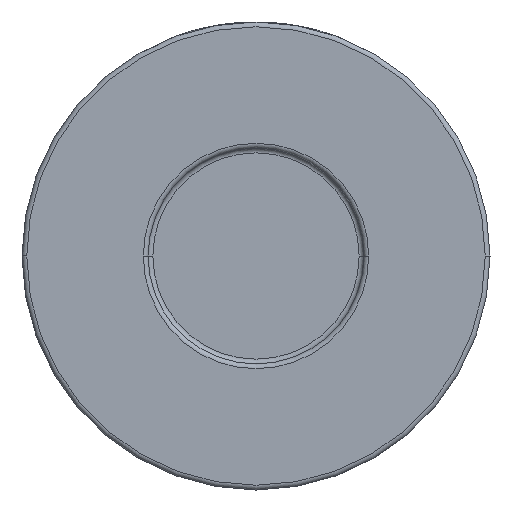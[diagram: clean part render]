
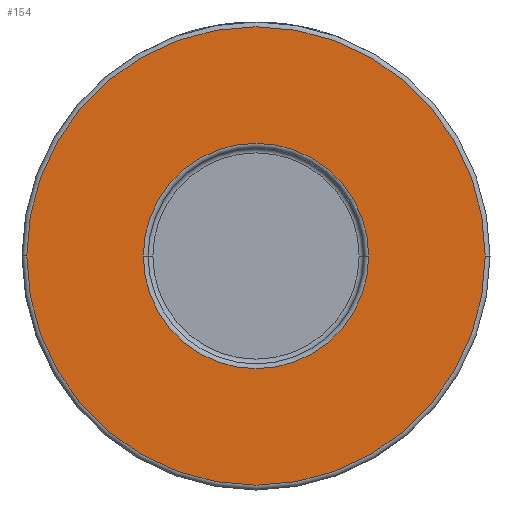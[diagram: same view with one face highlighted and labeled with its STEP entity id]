
A CAD part, front view. The second image highlights one B-rep face of the part: STEP entity #154.
In plain terms, the highlighted planar face has unit normal (0, -1, 0).
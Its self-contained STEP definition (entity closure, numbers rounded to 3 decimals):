
#142 = ORIENTED_EDGE ( 'NONE', *, *, #3901, .T. ) ;
#154 = ADVANCED_FACE ( 'NONE', ( #4289, #1825 ), #2901, .T. ) ;
#222 = DIRECTION ( 'NONE',  ( 1., 0., 0. ) ) ;
#232 = DIRECTION ( 'NONE',  ( 0., -1., 0. ) ) ;
#506 = AXIS2_PLACEMENT_3D ( 'NONE', #2169, #1819, #3239 ) ;
#522 = VERTEX_POINT ( 'NONE', #3662 ) ;
#654 = ORIENTED_EDGE ( 'NONE', *, *, #3894, .T. ) ;
#674 = ORIENTED_EDGE ( 'NONE', *, *, #1711, .T. ) ;
#876 = EDGE_LOOP ( 'NONE', ( #2330, #654 ) ) ;
#919 = DIRECTION ( 'NONE',  ( 0., 1., 0. ) ) ;
#990 = CARTESIAN_POINT ( 'NONE',  ( 0., -30., 0. ) ) ;
#1184 = CIRCLE ( 'NONE', #1768, 48. ) ;
#1221 = VERTEX_POINT ( 'NONE', #4393 ) ;
#1538 = AXIS2_PLACEMENT_3D ( 'NONE', #2462, #232, #1644 ) ;
#1644 = DIRECTION ( 'NONE',  ( 1., 0., 0. ) ) ;
#1711 = EDGE_CURVE ( 'NONE', #1793, #1221, #4361, .T. ) ;
#1768 = AXIS2_PLACEMENT_3D ( 'NONE', #4141, #3710, #222 ) ;
#1793 = VERTEX_POINT ( 'NONE', #4274 ) ;
#1819 = DIRECTION ( 'NONE',  ( 0., 1., 0. ) ) ;
#1825 = FACE_OUTER_BOUND ( 'NONE', #2814, .T. ) ;
#1957 = CARTESIAN_POINT ( 'NONE',  ( 23.6, -30., 0. ) ) ;
#2169 = CARTESIAN_POINT ( 'NONE',  ( 0., -30., 0. ) ) ;
#2330 = ORIENTED_EDGE ( 'NONE', *, *, #2480, .T. ) ;
#2462 = CARTESIAN_POINT ( 'NONE',  ( 0., -30., 0. ) ) ;
#2480 = EDGE_CURVE ( 'NONE', #3040, #522, #4430, .T. ) ;
#2594 = AXIS2_PLACEMENT_3D ( 'NONE', #990, #919, #3380 ) ;
#2814 = EDGE_LOOP ( 'NONE', ( #142, #674 ) ) ;
#2901 = PLANE ( 'NONE',  #4473 ) ;
#3040 = VERTEX_POINT ( 'NONE', #1957 ) ;
#3239 = DIRECTION ( 'NONE',  ( 1., 0., 0. ) ) ;
#3380 = DIRECTION ( 'NONE',  ( 1., 0., 0. ) ) ;
#3662 = CARTESIAN_POINT ( 'NONE',  ( -23.6, -30., 0. ) ) ;
#3710 = DIRECTION ( 'NONE',  ( 0., -1., 0. ) ) ;
#3894 = EDGE_CURVE ( 'NONE', #522, #3040, #4586, .T. ) ;
#3901 = EDGE_CURVE ( 'NONE', #1221, #1793, #1184, .T. ) ;
#4007 = DIRECTION ( 'NONE',  ( 0., -1., 0. ) ) ;
#4048 = DIRECTION ( 'NONE',  ( 1., 0., 0. ) ) ;
#4141 = CARTESIAN_POINT ( 'NONE',  ( 0., -30., 0. ) ) ;
#4274 = CARTESIAN_POINT ( 'NONE',  ( -48., -30., 0. ) ) ;
#4289 = FACE_BOUND ( 'NONE', #876, .T. ) ;
#4315 = CARTESIAN_POINT ( 'NONE',  ( 49., -30., 0. ) ) ;
#4361 = CIRCLE ( 'NONE', #1538, 48. ) ;
#4393 = CARTESIAN_POINT ( 'NONE',  ( 48., -30., 0. ) ) ;
#4430 = CIRCLE ( 'NONE', #506, 23.6 ) ;
#4473 = AXIS2_PLACEMENT_3D ( 'NONE', #4315, #4007, #4048 ) ;
#4586 = CIRCLE ( 'NONE', #2594, 23.6 ) ;
